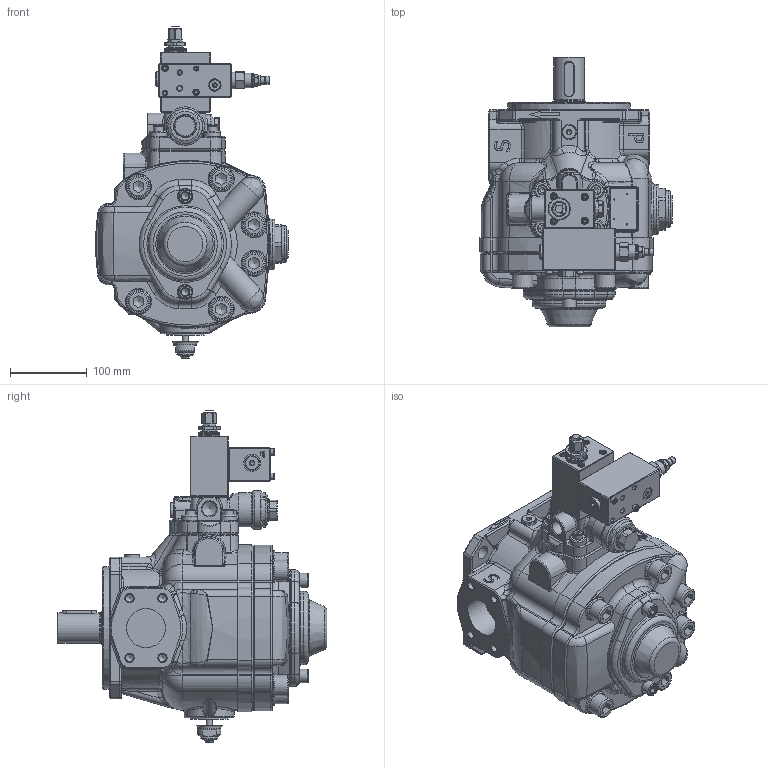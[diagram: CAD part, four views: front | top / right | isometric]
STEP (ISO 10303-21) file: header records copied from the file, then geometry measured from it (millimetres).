
FILE_DESCRIPTION(/* description */ (''),/* implementation_level */ '2;1');
FILE_NAME(/* name */ 'C:\Users\marcop\Desktop\01 PHPK 3 FHRMA PCS003.stp',/* time_stamp */ '2019-11-21T10:52:45+01:00',/* author */ ('marcop'),/* organization */ (''),/* preprocessor_version */ 'ST-DEVELOPER v17',/* originating_system */ 'Autodesk Inventor 2018',/* authorisation */ '');
FILE_SCHEMA (('AUTOMOTIVE_DESIGN { 1 0 10303 214 3 1 1 }'));
Products named in the file (1): PLP-PHP 3_Shrinkwrap_1
Bounding box: 251.18 x 352 x 433.1 mm (x, y, z)
Volume: 7321026.1 mm3; surface area: 616032 mm2
Topology: 2 solids, 2 shells, 2501 faces, 6379 edges, 3952 vertices
Faces by surface type: plane 906, cylinder 556, bspline 459, cone 284, torus 252, sphere 44
Full cylindrical faces by diameter (mm): 0.9 x3, 1.7 x4, 3 x2, 3.15 x1, 4 x1, 4.134 x2, 5.5 x2, 6 x2, 6.5 x3, 7.2 x1, 7.671 x2, 8 x1, 8.376 x4, 8.5 x6, 8.566 x2, 9.347 x2, 9.5 x5, 10.106 x4, 11.445 x1, 12 x5, 13 x4, 13.487 x1, 13.5 x1, 13.767 x2, 14 x3, 14.224 x1, 14.63 x1, 15.5 x1, 16 x2, 17.374 x1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
Entity records: 92898 total; most frequent: CARTESIAN_POINT 32804, ORIENTED_EDGE 12580, DIRECTION 11438, EDGE_CURVE 6290, AXIS2_PLACEMENT_3D 4476, VERTEX_POINT 3952, EDGE_LOOP 2676, STYLED_ITEM 2503
